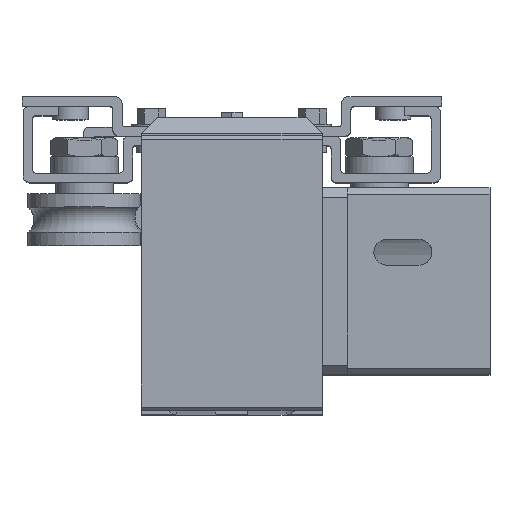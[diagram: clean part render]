
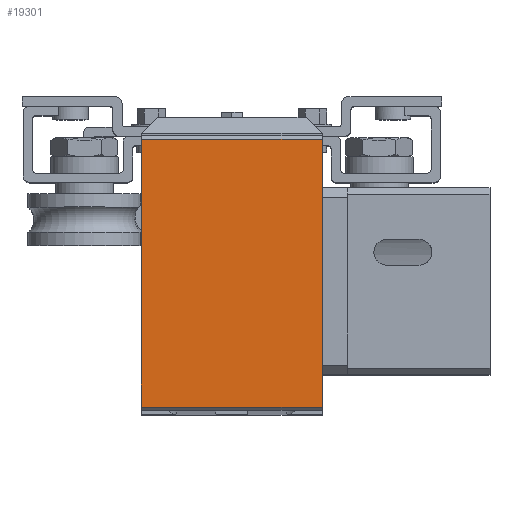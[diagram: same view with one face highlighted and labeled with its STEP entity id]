
A CAD part, top view. The second image highlights one B-rep face of the part: STEP entity #19301.
In plain terms, the highlighted planar face has unit normal (0, 0, 1) as drawn and (-1, 0, 0) by its records, which use the part's own axes.
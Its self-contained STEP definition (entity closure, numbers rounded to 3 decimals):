
#284 = CARTESIAN_POINT ( 'NONE',  ( -48., -41.5, 56. ) ) ;
#1394 = LINE ( 'NONE', #18005, #1530 ) ;
#1530 = VECTOR ( 'NONE', #4155, 1000. ) ;
#1936 = VECTOR ( 'NONE', #14816, 1000. ) ;
#2213 = EDGE_CURVE ( 'NONE', #4807, #11697, #8670, .T. ) ;
#2428 = VERTEX_POINT ( 'NONE', #284 ) ;
#2886 = CARTESIAN_POINT ( 'NONE',  ( -48., -41.5, 0. ) ) ;
#3145 = EDGE_CURVE ( 'NONE', #11697, #7623, #10700, .T. ) ;
#3724 = LINE ( 'NONE', #17388, #8308 ) ;
#3831 = FACE_OUTER_BOUND ( 'NONE', #15688, .T. ) ;
#4111 = CARTESIAN_POINT ( 'NONE',  ( -48., 41.5, 56. ) ) ;
#4155 = DIRECTION ( 'NONE',  ( 0., -1., 0. ) ) ;
#4807 = VERTEX_POINT ( 'NONE', #8675 ) ;
#5505 = DIRECTION ( 'NONE',  ( 0., 0., -1. ) ) ;
#5772 = CARTESIAN_POINT ( 'NONE',  ( -48., 41.5, 0. ) ) ;
#6655 = AXIS2_PLACEMENT_3D ( 'NONE', #13054, #19095, #5505 ) ;
#7623 = VERTEX_POINT ( 'NONE', #15740 ) ;
#8308 = VECTOR ( 'NONE', #18889, 1000. ) ;
#8670 = LINE ( 'NONE', #4111, #1936 ) ;
#8675 = CARTESIAN_POINT ( 'NONE',  ( -48., 41.5, 56. ) ) ;
#8928 = DIRECTION ( 'NONE',  ( 0., -1., 0. ) ) ;
#9877 = PLANE ( 'NONE',  #6655 ) ;
#10700 = LINE ( 'NONE', #2886, #16470 ) ;
#11190 = EDGE_CURVE ( 'NONE', #2428, #7623, #3724, .T. ) ;
#11697 = VERTEX_POINT ( 'NONE', #5772 ) ;
#13054 = CARTESIAN_POINT ( 'NONE',  ( -48., -41.5, 56. ) ) ;
#14816 = DIRECTION ( 'NONE',  ( 0., 0., -1. ) ) ;
#14984 = ORIENTED_EDGE ( 'NONE', *, *, #3145, .T. ) ;
#15133 = EDGE_CURVE ( 'NONE', #4807, #2428, #1394, .T. ) ;
#15688 = EDGE_LOOP ( 'NONE', ( #14984, #15712, #19294, #16374 ) ) ;
#15712 = ORIENTED_EDGE ( 'NONE', *, *, #11190, .F. ) ;
#15740 = CARTESIAN_POINT ( 'NONE',  ( -48., -41.5, 0. ) ) ;
#16374 = ORIENTED_EDGE ( 'NONE', *, *, #2213, .T. ) ;
#16470 = VECTOR ( 'NONE', #8928, 1000. ) ;
#17388 = CARTESIAN_POINT ( 'NONE',  ( -48., -41.5, 56. ) ) ;
#18005 = CARTESIAN_POINT ( 'NONE',  ( -48., -41.5, 56. ) ) ;
#18889 = DIRECTION ( 'NONE',  ( 0., 0., -1. ) ) ;
#19095 = DIRECTION ( 'NONE',  ( 1., 0., 0. ) ) ;
#19294 = ORIENTED_EDGE ( 'NONE', *, *, #15133, .F. ) ;
#19301 = ADVANCED_FACE ( 'NONE', ( #3831 ), #9877, .F. ) ;
